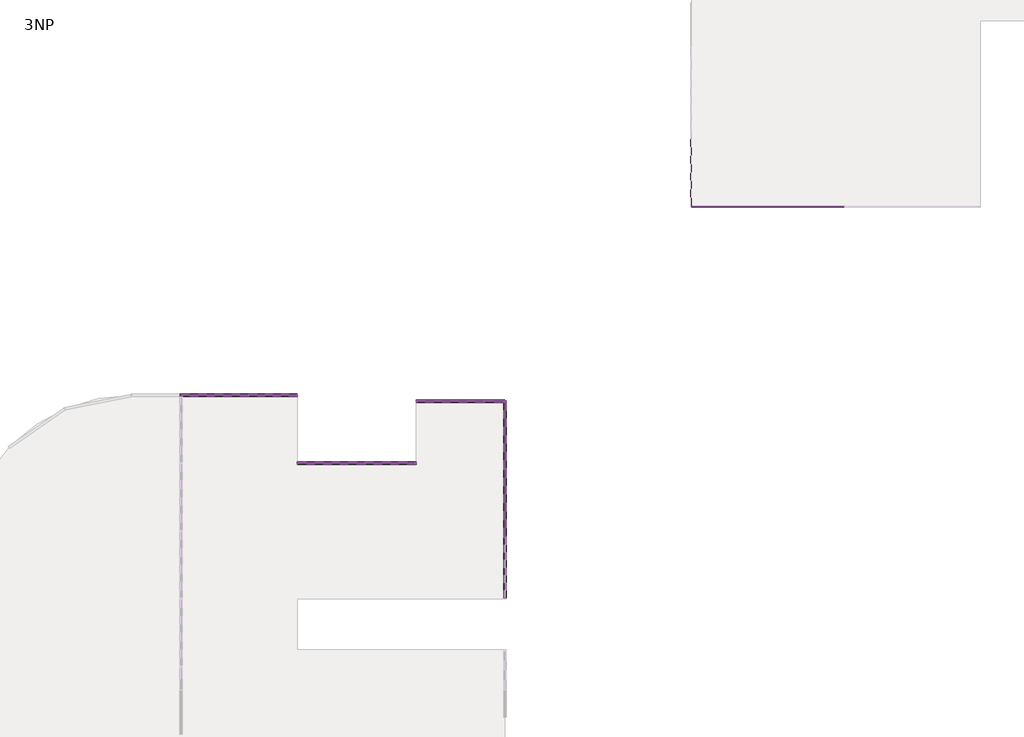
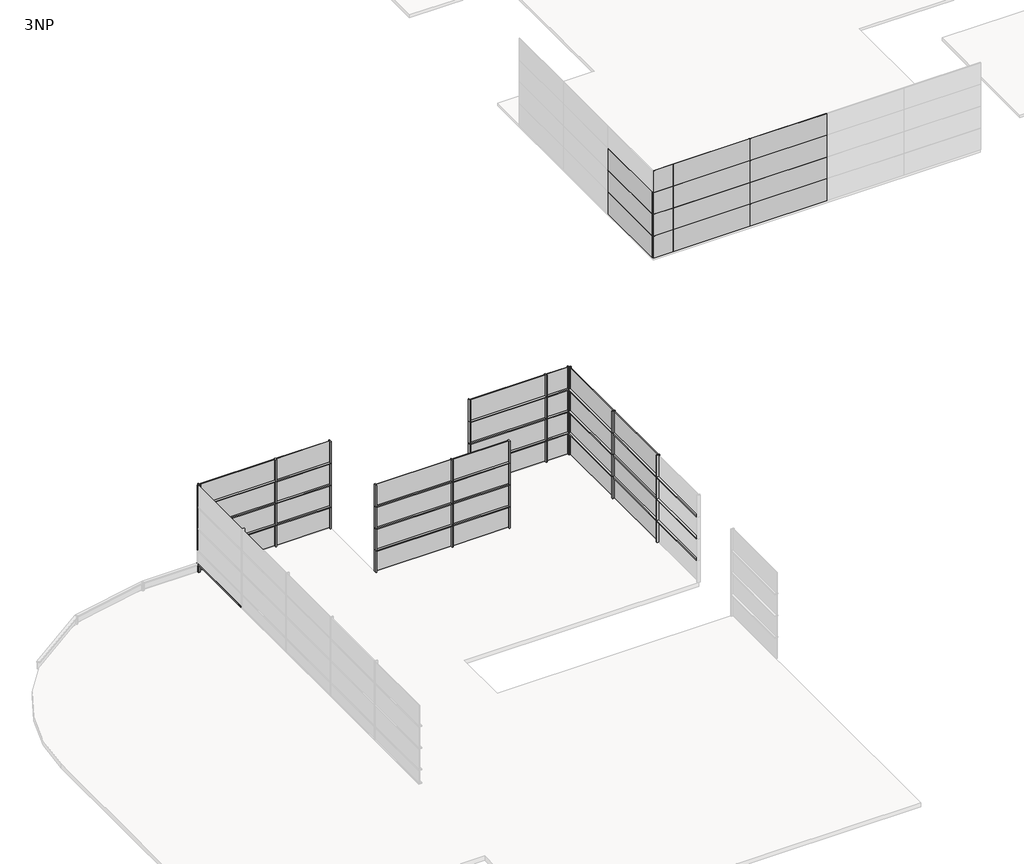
# One storey, part 3 of 4: 81 members, 47 plates.
"""IFC4 building model written with IfcOpenShell, lengths in millimetres."""

from ifc_helpers import new_model, si_unit, origin, place, context, project, spatial, transform, mapped, element, save
from components import rectangular_mullion_50_x_150mm_d99dc9be, rectangular_mullion_50_x_150mm_402ab136, rectangular_mullion_50_x_150mm_6588f46c, rectangular_mullion_50_x_150mm_3fe1b35e, rectangular_mullion_50_x_150mm_a037c29c, rectangular_mullion_50_x_150mm_c2546fd4, rectangular_mullion_50_x_150mm_8b4cb4b7, rectangular_mullion_50_x_150mm_6c212b22, rectangular_mullion_50_x_150mm_70b588a3, rectangular_mullion_50_x_150mm_185cfd49, rectangular_mullion_50_x_150mm_2fe63767, system_panel_glazed_8e9402eb, system_panel_glazed_89ac83a7, system_panel_glazed_e890f31e, system_panel_glazed_bdf03046, system_panel_glazed_e3e91f99, system_panel_glazed_39d17f19, system_panel_glazed_d6eabcf1, system_panel_glazed_926b6355

model = new_model("IFC4")

# Units and contexts
model_context = context("Model", 3, world=origin())
ifc_project = project(units=[si_unit("LENGTHUNIT", "METRE", prefix="MILLI")], contexts=[model_context])

# Site, building, storey
site = spatial("IfcSite", under=ifc_project)
building = spatial("IfcBuilding", under=site)
storey = spatial("IfcBuildingStorey", under=building, Name="3NP", Elevation=12000.0)

# Members
placement = place(None, origin())
rectangular_mullion_50_x_150mm_shape = rectangular_mullion_50_x_150mm_d99dc9be(model_context)
element("IfcMember", 1, ObjectType="Rectangular Mullion : 50 x 150mm", at=placement, inside=storey, context=model_context, shape_type="MappedRepresentation", body=[
    mapped(rectangular_mullion_50_x_150mm_shape, transform((13503.2660975, 39.3555415, 16800.0), x_axis=(0.0, -1.0, 0.0), y_axis=(1.0, 0.0, 0.0), z_axis=(0.0, 0.0, 1.0))),
])
element("IfcMember", 2, ObjectType="Rectangular Mullion : 50 x 150mm", at=placement, inside=storey, context=model_context, shape_type="MappedRepresentation", body=[
    mapped(rectangular_mullion_50_x_150mm_shape, transform((13503.2660975, 39.3555415, 15600.0), x_axis=(0.0, -1.0, 0.0), y_axis=(1.0, 0.0, 0.0), z_axis=(0.0, 0.0, 1.0))),
])
element("IfcMember", 3, ObjectType="Rectangular Mullion : 50 x 150mm", at=placement, inside=storey, context=model_context, shape_type="MappedRepresentation", body=[
    mapped(rectangular_mullion_50_x_150mm_shape, transform((13503.2660975, 39.3555415, 14400.0), x_axis=(0.0, -1.0, 0.0), y_axis=(1.0, 0.0, 0.0), z_axis=(0.0, 0.0, 1.0))),
])
element("IfcMember", 4, ObjectType="Rectangular Mullion : 50 x 150mm", at=placement, inside=storey, context=model_context, shape_type="MappedRepresentation", body=[
    mapped(rectangular_mullion_50_x_150mm_shape, transform((13503.2660975, 39.3555415, 13200.0), x_axis=(0.0, -1.0, 0.0), y_axis=(1.0, 0.0, 0.0), z_axis=(0.0, 0.0, 1.0))),
])
element("IfcMember", 5, ObjectType="Rectangular Mullion : 50 x 150mm", at=placement, inside=storey, context=model_context, shape_type="MappedRepresentation", body=[
    mapped(rectangular_mullion_50_x_150mm_shape, transform((13503.2660975, 4039.3555415, 16800.0), x_axis=(0.0, -1.0, 0.0), y_axis=(1.0, 0.0, 0.0), z_axis=(0.0, 0.0, 1.0))),
])
element("IfcMember", 6, ObjectType="Rectangular Mullion : 50 x 150mm", at=placement, inside=storey, context=model_context, shape_type="MappedRepresentation", body=[
    mapped(rectangular_mullion_50_x_150mm_shape, transform((13503.2660975, 4039.3555415, 15600.0), x_axis=(0.0, -1.0, 0.0), y_axis=(1.0, 0.0, 0.0), z_axis=(0.0, 0.0, 1.0))),
])
element("IfcMember", 7, ObjectType="Rectangular Mullion : 50 x 150mm", at=placement, inside=storey, context=model_context, shape_type="MappedRepresentation", body=[
    mapped(rectangular_mullion_50_x_150mm_shape, transform((13503.2660975, 4039.3555415, 14400.0), x_axis=(0.0, -1.0, 0.0), y_axis=(1.0, 0.0, 0.0), z_axis=(0.0, 0.0, 1.0))),
])
element("IfcMember", 8, ObjectType="Rectangular Mullion : 50 x 150mm", at=placement, inside=storey, context=model_context, shape_type="MappedRepresentation", body=[
    mapped(rectangular_mullion_50_x_150mm_shape, transform((13503.2660975, 4039.3555415, 13200.0), x_axis=(0.0, -1.0, 0.0), y_axis=(1.0, 0.0, 0.0), z_axis=(0.0, 0.0, 1.0))),
])
element("IfcMember", 9, ObjectType="Rectangular Mullion : 50 x 150mm", at=placement, inside=storey, context=model_context, shape_type="MappedRepresentation", body=[
    mapped(rectangular_mullion_50_x_150mm_shape, transform((-1587.173406, 8375.9839566, 13200.0), x_axis=(1.0, 0.0, 0.0), y_axis=(0.0, 1.0, 0.0), z_axis=(0.0, 0.0, 1.0))),
])
element("IfcMember", 10, ObjectType="Rectangular Mullion : 50 x 150mm", at=placement, inside=storey, context=model_context, shape_type="MappedRepresentation", body=[
    mapped(rectangular_mullion_50_x_150mm_shape, transform((-1587.173406, 8375.9839566, 14400.0), x_axis=(1.0, 0.0, 0.0), y_axis=(0.0, 1.0, 0.0), z_axis=(0.0, 0.0, 1.0))),
])
element("IfcMember", 11, ObjectType="Rectangular Mullion : 50 x 150mm", at=placement, inside=storey, context=model_context, shape_type="MappedRepresentation", body=[
    mapped(rectangular_mullion_50_x_150mm_shape, transform((-1587.173406, 8375.9839566, 15600.0), x_axis=(1.0, 0.0, 0.0), y_axis=(0.0, 1.0, 0.0), z_axis=(0.0, 0.0, 1.0))),
])
element("IfcMember", 12, ObjectType="Rectangular Mullion : 50 x 150mm", at=placement, inside=storey, context=model_context, shape_type="MappedRepresentation", body=[
    mapped(rectangular_mullion_50_x_150mm_shape, transform((-1587.173406, 8375.9839566, 16800.0), x_axis=(1.0, 0.0, 0.0), y_axis=(0.0, 1.0, 0.0), z_axis=(0.0, 0.0, 1.0))),
])
element("IfcMember", 13, ObjectType="Rectangular Mullion : 50 x 150mm", at=placement, inside=storey, context=model_context, shape_type="MappedRepresentation", body=[
    mapped(rectangular_mullion_50_x_150mm_shape, transform((5278.419219, 4375.9839566, 16800.0), x_axis=(1.0, 0.0, 0.0), y_axis=(0.0, 1.0, 0.0), z_axis=(0.0, 0.0, 1.0))),
])
element("IfcMember", 14, ObjectType="Rectangular Mullion : 50 x 150mm", at=placement, inside=storey, context=model_context, shape_type="MappedRepresentation", body=[
    mapped(rectangular_mullion_50_x_150mm_shape, transform((5278.419219, 4375.9839566, 13200.0), x_axis=(1.0, 0.0, 0.0), y_axis=(0.0, 1.0, 0.0), z_axis=(0.0, 0.0, 1.0))),
])
element("IfcMember", 15, ObjectType="Rectangular Mullion : 50 x 150mm", at=placement, inside=storey, context=model_context, shape_type="MappedRepresentation", body=[
    mapped(rectangular_mullion_50_x_150mm_shape, transform((5278.419219, 4375.9839566, 14400.0), x_axis=(1.0, 0.0, 0.0), y_axis=(0.0, 1.0, 0.0), z_axis=(0.0, 0.0, 1.0))),
])
element("IfcMember", 16, ObjectType="Rectangular Mullion : 50 x 150mm", at=placement, inside=storey, context=model_context, shape_type="MappedRepresentation", body=[
    mapped(rectangular_mullion_50_x_150mm_shape, transform((5278.419219, 4375.9839566, 15600.0), x_axis=(1.0, 0.0, 0.0), y_axis=(0.0, 1.0, 0.0), z_axis=(0.0, 0.0, 1.0))),
])
element("IfcMember", 17, ObjectType="Rectangular Mullion : 50 x 150mm", at=placement, inside=storey, context=model_context, shape_type="MappedRepresentation", body=[
    mapped(rectangular_mullion_50_x_150mm_shape, transform((12278.419219, 8039.3555415, 13200.0), x_axis=(1.0, 0.0, 0.0), y_axis=(0.0, 1.0, 0.0), z_axis=(0.0, 0.0, 1.0))),
])
element("IfcMember", 18, ObjectType="Rectangular Mullion : 50 x 150mm", at=placement, inside=storey, context=model_context, shape_type="MappedRepresentation", body=[
    mapped(rectangular_mullion_50_x_150mm_shape, transform((12278.419219, 8039.3555415, 14400.0), x_axis=(1.0, 0.0, 0.0), y_axis=(0.0, 1.0, 0.0), z_axis=(0.0, 0.0, 1.0))),
])
element("IfcMember", 19, ObjectType="Rectangular Mullion : 50 x 150mm", at=placement, inside=storey, context=model_context, shape_type="MappedRepresentation", body=[
    mapped(rectangular_mullion_50_x_150mm_shape, transform((12278.419219, 8039.3555415, 15600.0), x_axis=(1.0, 0.0, 0.0), y_axis=(0.0, 1.0, 0.0), z_axis=(0.0, 0.0, 1.0))),
])
element("IfcMember", 20, ObjectType="Rectangular Mullion : 50 x 150mm", at=placement, inside=storey, context=model_context, shape_type="MappedRepresentation", body=[
    mapped(rectangular_mullion_50_x_150mm_shape, transform((12278.419219, 8039.3555415, 16800.0), x_axis=(1.0, 0.0, 0.0), y_axis=(0.0, 1.0, 0.0), z_axis=(0.0, 0.0, 1.0))),
])
rectangular_mullion_50_x_150mm_2_shape = rectangular_mullion_50_x_150mm_402ab136(model_context)
element("IfcMember", 21, ObjectType="Rectangular Mullion : 50 x 150mm", at=placement, inside=storey, context=model_context, shape_type="MappedRepresentation", body=[
    mapped(rectangular_mullion_50_x_150mm_2_shape, transform((-5587.173406, 8325.9839566, 12448.4924443), x_axis=(0.0, 0.0, -1.0), y_axis=(-1.0, 0.0, 0.0), z_axis=(0.0, 1.0, 0.0))),
])
rectangular_mullion_50_x_150mm_3_shape = rectangular_mullion_50_x_150mm_6588f46c(model_context)
element("IfcMember", 22, ObjectType="Rectangular Mullion : 50 x 150mm", at=placement, inside=storey, context=model_context, shape_type="MappedRepresentation", body=[
    mapped(rectangular_mullion_50_x_150mm_3_shape, transform((-5587.173406, 8375.9839566, 14400.0), x_axis=(0.0, 1.0, 0.0), y_axis=(-1.0, 0.0, 0.0), z_axis=(0.0, 0.0, 1.0))),
])
element("IfcMember", 23, ObjectType="Rectangular Mullion : 50 x 150mm", at=placement, inside=storey, context=model_context, shape_type="MappedRepresentation", body=[
    mapped(rectangular_mullion_50_x_150mm_3_shape, transform((-5587.173406, 8375.9839566, 15600.0), x_axis=(0.0, 1.0, 0.0), y_axis=(-1.0, 0.0, 0.0), z_axis=(0.0, 0.0, 1.0))),
])
element("IfcMember", 24, ObjectType="Rectangular Mullion : 50 x 150mm", at=placement, inside=storey, context=model_context, shape_type="MappedRepresentation", body=[
    mapped(rectangular_mullion_50_x_150mm_3_shape, transform((-5587.173406, 8375.9839566, 16800.0), x_axis=(0.0, 1.0, 0.0), y_axis=(-1.0, 0.0, 0.0), z_axis=(0.0, 0.0, 1.0))),
])
element("IfcMember", 25, ObjectType="Rectangular Mullion : 50 x 150mm", at=placement, inside=storey, context=model_context, shape_type="MappedRepresentation", body=[
    mapped(rectangular_mullion_50_x_150mm_3_shape, transform((1278.419219, 8375.9839566, 13200.0), x_axis=(1.0, 0.0, 0.0), y_axis=(0.0, 1.0, 0.0), z_axis=(0.0, 0.0, 1.0))),
])
element("IfcMember", 26, ObjectType="Rectangular Mullion : 50 x 150mm", at=placement, inside=storey, context=model_context, shape_type="MappedRepresentation", body=[
    mapped(rectangular_mullion_50_x_150mm_3_shape, transform((1278.419219, 8375.9839566, 14400.0), x_axis=(1.0, 0.0, 0.0), y_axis=(0.0, 1.0, 0.0), z_axis=(0.0, 0.0, 1.0))),
])
element("IfcMember", 27, ObjectType="Rectangular Mullion : 50 x 150mm", at=placement, inside=storey, context=model_context, shape_type="MappedRepresentation", body=[
    mapped(rectangular_mullion_50_x_150mm_3_shape, transform((1278.419219, 8375.9839566, 15600.0), x_axis=(1.0, 0.0, 0.0), y_axis=(0.0, 1.0, 0.0), z_axis=(0.0, 0.0, 1.0))),
])
element("IfcMember", 28, ObjectType="Rectangular Mullion : 50 x 150mm", at=placement, inside=storey, context=model_context, shape_type="MappedRepresentation", body=[
    mapped(rectangular_mullion_50_x_150mm_3_shape, transform((1278.419219, 8375.9839566, 16800.0), x_axis=(1.0, 0.0, 0.0), y_axis=(0.0, 1.0, 0.0), z_axis=(0.0, 0.0, 1.0))),
])
element("IfcMember", 29, ObjectType="Rectangular Mullion : 50 x 150mm", at=placement, inside=storey, context=model_context, shape_type="MappedRepresentation", body=[
    mapped(rectangular_mullion_50_x_150mm_3_shape, transform((8278.419219, 4375.9839566, 13200.0), x_axis=(1.0, 0.0, 0.0), y_axis=(0.0, 1.0, 0.0), z_axis=(0.0, 0.0, 1.0))),
])
element("IfcMember", 30, ObjectType="Rectangular Mullion : 50 x 150mm", at=placement, inside=storey, context=model_context, shape_type="MappedRepresentation", body=[
    mapped(rectangular_mullion_50_x_150mm_3_shape, transform((8278.419219, 4375.9839566, 14400.0), x_axis=(1.0, 0.0, 0.0), y_axis=(0.0, 1.0, 0.0), z_axis=(0.0, 0.0, 1.0))),
])
element("IfcMember", 31, ObjectType="Rectangular Mullion : 50 x 150mm", at=placement, inside=storey, context=model_context, shape_type="MappedRepresentation", body=[
    mapped(rectangular_mullion_50_x_150mm_3_shape, transform((8278.419219, 4375.9839566, 15600.0), x_axis=(1.0, 0.0, 0.0), y_axis=(0.0, 1.0, 0.0), z_axis=(0.0, 0.0, 1.0))),
])
element("IfcMember", 32, ObjectType="Rectangular Mullion : 50 x 150mm", at=placement, inside=storey, context=model_context, shape_type="MappedRepresentation", body=[
    mapped(rectangular_mullion_50_x_150mm_3_shape, transform((8278.419219, 4375.9839566, 16800.0), x_axis=(1.0, 0.0, 0.0), y_axis=(0.0, 1.0, 0.0), z_axis=(0.0, 0.0, 1.0))),
])
element("IfcMember", 33, ObjectType="Rectangular Mullion : 50 x 150mm", at=placement, inside=storey, context=model_context, shape_type="MappedRepresentation", body=[
    mapped(rectangular_mullion_50_x_150mm_3_shape, transform((13503.2660975, 8039.3555415, 13200.0), x_axis=(1.0, 0.0, 0.0), y_axis=(0.0, 1.0, 0.0), z_axis=(0.0, 0.0, 1.0))),
])
element("IfcMember", 34, ObjectType="Rectangular Mullion : 50 x 150mm", at=placement, inside=storey, context=model_context, shape_type="MappedRepresentation", body=[
    mapped(rectangular_mullion_50_x_150mm_3_shape, transform((13503.2660975, 8039.3555415, 14400.0), x_axis=(1.0, 0.0, 0.0), y_axis=(0.0, 1.0, 0.0), z_axis=(0.0, 0.0, 1.0))),
])
element("IfcMember", 35, ObjectType="Rectangular Mullion : 50 x 150mm", at=placement, inside=storey, context=model_context, shape_type="MappedRepresentation", body=[
    mapped(rectangular_mullion_50_x_150mm_3_shape, transform((13503.2660975, 8039.3555415, 15600.0), x_axis=(1.0, 0.0, 0.0), y_axis=(0.0, 1.0, 0.0), z_axis=(0.0, 0.0, 1.0))),
])
element("IfcMember", 36, ObjectType="Rectangular Mullion : 50 x 150mm", at=placement, inside=storey, context=model_context, shape_type="MappedRepresentation", body=[
    mapped(rectangular_mullion_50_x_150mm_3_shape, transform((13503.2660975, 8039.3555415, 16800.0), x_axis=(1.0, 0.0, 0.0), y_axis=(0.0, 1.0, 0.0), z_axis=(0.0, 0.0, 1.0))),
])
rectangular_mullion_50_x_150mm_4_shape = rectangular_mullion_50_x_150mm_3fe1b35e(model_context)
element("IfcMember", 37, ObjectType="Rectangular Mullion : 50 x 150mm", at=placement, inside=storey, context=model_context, shape_type="MappedRepresentation", body=[
    mapped(rectangular_mullion_50_x_150mm_4_shape, transform((13503.2660975, 14.3555415, 15600.0), x_axis=(0.0, 0.0, 1.0), y_axis=(1.0, 0.0, 0.0), z_axis=(0.0, 1.0, 0.0))),
])
element("IfcMember", 38, ObjectType="Rectangular Mullion : 50 x 150mm", at=placement, inside=storey, context=model_context, shape_type="MappedRepresentation", body=[
    mapped(rectangular_mullion_50_x_150mm_4_shape, transform((13503.2660975, 14.3555415, 14400.0), x_axis=(0.0, 0.0, 1.0), y_axis=(1.0, 0.0, 0.0), z_axis=(0.0, 1.0, 0.0))),
])
element("IfcMember", 39, ObjectType="Rectangular Mullion : 50 x 150mm", at=placement, inside=storey, context=model_context, shape_type="MappedRepresentation", body=[
    mapped(rectangular_mullion_50_x_150mm_4_shape, transform((13503.2660975, 14.3555415, 13200.0), x_axis=(0.0, 0.0, 1.0), y_axis=(1.0, 0.0, 0.0), z_axis=(0.0, 1.0, 0.0))),
])
rectangular_mullion_50_x_150mm_5_shape = rectangular_mullion_50_x_150mm_a037c29c(model_context)
element("IfcMember", 40, ObjectType="Rectangular Mullion : 50 x 150mm", at=placement, inside=storey, context=model_context, shape_type="MappedRepresentation", body=[
    mapped(rectangular_mullion_50_x_150mm_5_shape, transform((13503.2660975, 4014.3555415, 15600.0), x_axis=(0.0, 0.0, 1.0), y_axis=(1.0, 0.0, 0.0), z_axis=(0.0, 1.0, 0.0))),
])
element("IfcMember", 41, ObjectType="Rectangular Mullion : 50 x 150mm", at=placement, inside=storey, context=model_context, shape_type="MappedRepresentation", body=[
    mapped(rectangular_mullion_50_x_150mm_5_shape, transform((13503.2660975, 4014.3555415, 14400.0), x_axis=(0.0, 0.0, 1.0), y_axis=(1.0, 0.0, 0.0), z_axis=(0.0, 1.0, 0.0))),
])
element("IfcMember", 42, ObjectType="Rectangular Mullion : 50 x 150mm", at=placement, inside=storey, context=model_context, shape_type="MappedRepresentation", body=[
    mapped(rectangular_mullion_50_x_150mm_5_shape, transform((13503.2660975, 4014.3555415, 13200.0), x_axis=(0.0, 0.0, 1.0), y_axis=(1.0, 0.0, 0.0), z_axis=(0.0, 1.0, 0.0))),
])
rectangular_mullion_50_x_150mm_6_shape = rectangular_mullion_50_x_150mm_c2546fd4(model_context)
element("IfcMember", 43, ObjectType="Rectangular Mullion : 50 x 150mm", at=placement, inside=storey, context=model_context, shape_type="MappedRepresentation", body=[
    mapped(rectangular_mullion_50_x_150mm_6_shape, transform((13503.2660975, 7989.3555415, 15600.0), x_axis=(0.0, 0.0, 1.0), y_axis=(1.0, 0.0, 0.0), z_axis=(0.0, 1.0, 0.0))),
])
element("IfcMember", 44, ObjectType="Rectangular Mullion : 50 x 150mm", at=placement, inside=storey, context=model_context, shape_type="MappedRepresentation", body=[
    mapped(rectangular_mullion_50_x_150mm_6_shape, transform((13503.2660975, 7989.3555415, 14400.0), x_axis=(0.0, 0.0, 1.0), y_axis=(1.0, 0.0, 0.0), z_axis=(0.0, 1.0, 0.0))),
])
element("IfcMember", 45, ObjectType="Rectangular Mullion : 50 x 150mm", at=placement, inside=storey, context=model_context, shape_type="MappedRepresentation", body=[
    mapped(rectangular_mullion_50_x_150mm_6_shape, transform((13503.2660975, 7989.3555415, 13200.0), x_axis=(0.0, 0.0, 1.0), y_axis=(1.0, 0.0, 0.0), z_axis=(0.0, 1.0, 0.0))),
])
element("IfcMember", 46, ObjectType="Rectangular Mullion : 50 x 150mm", at=placement, inside=storey, context=model_context, shape_type="MappedRepresentation", body=[
    mapped(rectangular_mullion_50_x_150mm_6_shape, transform((-5537.173406, 8375.9839566, 13200.0), x_axis=(0.0, 0.0, 1.0), y_axis=(0.0, 1.0, 0.0), z_axis=(-1.0, 0.0, 0.0))),
])
element("IfcMember", 47, ObjectType="Rectangular Mullion : 50 x 150mm", at=placement, inside=storey, context=model_context, shape_type="MappedRepresentation", body=[
    mapped(rectangular_mullion_50_x_150mm_6_shape, transform((-5537.173406, 8375.9839566, 14400.0), x_axis=(0.0, 0.0, 1.0), y_axis=(0.0, 1.0, 0.0), z_axis=(-1.0, 0.0, 0.0))),
])
element("IfcMember", 48, ObjectType="Rectangular Mullion : 50 x 150mm", at=placement, inside=storey, context=model_context, shape_type="MappedRepresentation", body=[
    mapped(rectangular_mullion_50_x_150mm_6_shape, transform((-5537.173406, 8375.9839566, 15600.0), x_axis=(0.0, 0.0, 1.0), y_axis=(0.0, 1.0, 0.0), z_axis=(-1.0, 0.0, 0.0))),
])
element("IfcMember", 49, ObjectType="Rectangular Mullion : 50 x 150mm", at=placement, inside=storey, context=model_context, shape_type="MappedRepresentation", body=[
    mapped(rectangular_mullion_50_x_150mm_6_shape, transform((1328.419219, 4375.9839566, 13200.0), x_axis=(0.0, 0.0, 1.0), y_axis=(0.0, 1.0, 0.0), z_axis=(-1.0, 0.0, 0.0))),
])
element("IfcMember", 50, ObjectType="Rectangular Mullion : 50 x 150mm", at=placement, inside=storey, context=model_context, shape_type="MappedRepresentation", body=[
    mapped(rectangular_mullion_50_x_150mm_6_shape, transform((1328.419219, 4375.9839566, 14400.0), x_axis=(0.0, 0.0, 1.0), y_axis=(0.0, 1.0, 0.0), z_axis=(-1.0, 0.0, 0.0))),
])
element("IfcMember", 51, ObjectType="Rectangular Mullion : 50 x 150mm", at=placement, inside=storey, context=model_context, shape_type="MappedRepresentation", body=[
    mapped(rectangular_mullion_50_x_150mm_6_shape, transform((1328.419219, 4375.9839566, 15600.0), x_axis=(0.0, 0.0, 1.0), y_axis=(0.0, 1.0, 0.0), z_axis=(-1.0, 0.0, 0.0))),
])
element("IfcMember", 52, ObjectType="Rectangular Mullion : 50 x 150mm", at=placement, inside=storey, context=model_context, shape_type="MappedRepresentation", body=[
    mapped(rectangular_mullion_50_x_150mm_6_shape, transform((8328.419219, 8039.3555415, 13200.0), x_axis=(0.0, 0.0, 1.0), y_axis=(0.0, 1.0, 0.0), z_axis=(-1.0, 0.0, 0.0))),
])
element("IfcMember", 53, ObjectType="Rectangular Mullion : 50 x 150mm", at=placement, inside=storey, context=model_context, shape_type="MappedRepresentation", body=[
    mapped(rectangular_mullion_50_x_150mm_6_shape, transform((8328.419219, 8039.3555415, 14400.0), x_axis=(0.0, 0.0, 1.0), y_axis=(0.0, 1.0, 0.0), z_axis=(-1.0, 0.0, 0.0))),
])
element("IfcMember", 54, ObjectType="Rectangular Mullion : 50 x 150mm", at=placement, inside=storey, context=model_context, shape_type="MappedRepresentation", body=[
    mapped(rectangular_mullion_50_x_150mm_6_shape, transform((8328.419219, 8039.3555415, 15600.0), x_axis=(0.0, 0.0, 1.0), y_axis=(0.0, 1.0, 0.0), z_axis=(-1.0, 0.0, 0.0))),
])
element("IfcMember", 55, ObjectType="Rectangular Mullion : 50 x 150mm", at=placement, inside=storey, context=model_context, shape_type="MappedRepresentation", body=[
    mapped(rectangular_mullion_50_x_150mm_3_shape, transform((13503.2660975, 8039.3555415, 15600.0), x_axis=(0.0, 1.0, 0.0), y_axis=(1.0, 0.0, 0.0), z_axis=(0.0, 0.0, -1.0))),
])
element("IfcMember", 56, ObjectType="Rectangular Mullion : 50 x 150mm", at=placement, inside=storey, context=model_context, shape_type="MappedRepresentation", body=[
    mapped(rectangular_mullion_50_x_150mm_3_shape, transform((13503.2660975, 8039.3555415, 14400.0), x_axis=(0.0, 1.0, 0.0), y_axis=(1.0, 0.0, 0.0), z_axis=(0.0, 0.0, -1.0))),
])
element("IfcMember", 57, ObjectType="Rectangular Mullion : 50 x 150mm", at=placement, inside=storey, context=model_context, shape_type="MappedRepresentation", body=[
    mapped(rectangular_mullion_50_x_150mm_3_shape, transform((13503.2660975, 8039.3555415, 13200.0), x_axis=(0.0, 1.0, 0.0), y_axis=(1.0, 0.0, 0.0), z_axis=(0.0, 0.0, -1.0))),
])
element("IfcMember", 58, ObjectType="Rectangular Mullion : 50 x 150mm", at=placement, inside=storey, context=model_context, shape_type="MappedRepresentation", body=[
    mapped(rectangular_mullion_50_x_150mm_3_shape, transform((13503.2660975, 8039.3555415, 12000.0), x_axis=(0.0, 1.0, 0.0), y_axis=(1.0, 0.0, 0.0), z_axis=(0.0, 0.0, -1.0))),
])
element("IfcMember", 59, ObjectType="Rectangular Mullion : 50 x 150mm", at=placement, inside=storey, context=model_context, shape_type="MappedRepresentation", body=[
    mapped(rectangular_mullion_50_x_150mm_3_shape, transform((-5587.173406, 8375.9839566, 13200.0), x_axis=(-1.0, 0.0, 0.0), y_axis=(0.0, 1.0, 0.0), z_axis=(0.0, 0.0, -1.0))),
])
element("IfcMember", 60, ObjectType="Rectangular Mullion : 50 x 150mm", at=placement, inside=storey, context=model_context, shape_type="MappedRepresentation", body=[
    mapped(rectangular_mullion_50_x_150mm_3_shape, transform((-5587.173406, 8375.9839566, 14400.0), x_axis=(-1.0, 0.0, 0.0), y_axis=(0.0, 1.0, 0.0), z_axis=(0.0, 0.0, -1.0))),
])
element("IfcMember", 61, ObjectType="Rectangular Mullion : 50 x 150mm", at=placement, inside=storey, context=model_context, shape_type="MappedRepresentation", body=[
    mapped(rectangular_mullion_50_x_150mm_3_shape, transform((-5587.173406, 8375.9839566, 15600.0), x_axis=(-1.0, 0.0, 0.0), y_axis=(0.0, 1.0, 0.0), z_axis=(0.0, 0.0, -1.0))),
])
element("IfcMember", 62, ObjectType="Rectangular Mullion : 50 x 150mm", at=placement, inside=storey, context=model_context, shape_type="MappedRepresentation", body=[
    mapped(rectangular_mullion_50_x_150mm_3_shape, transform((1278.419219, 4375.9839566, 12000.0), x_axis=(-1.0, 0.0, 0.0), y_axis=(0.0, 1.0, 0.0), z_axis=(0.0, 0.0, -1.0))),
])
element("IfcMember", 63, ObjectType="Rectangular Mullion : 50 x 150mm", at=placement, inside=storey, context=model_context, shape_type="MappedRepresentation", body=[
    mapped(rectangular_mullion_50_x_150mm_3_shape, transform((1278.419219, 4375.9839566, 13200.0), x_axis=(-1.0, 0.0, 0.0), y_axis=(0.0, 1.0, 0.0), z_axis=(0.0, 0.0, -1.0))),
])
element("IfcMember", 64, ObjectType="Rectangular Mullion : 50 x 150mm", at=placement, inside=storey, context=model_context, shape_type="MappedRepresentation", body=[
    mapped(rectangular_mullion_50_x_150mm_3_shape, transform((1278.419219, 4375.9839566, 14400.0), x_axis=(-1.0, 0.0, 0.0), y_axis=(0.0, 1.0, 0.0), z_axis=(0.0, 0.0, -1.0))),
])
element("IfcMember", 65, ObjectType="Rectangular Mullion : 50 x 150mm", at=placement, inside=storey, context=model_context, shape_type="MappedRepresentation", body=[
    mapped(rectangular_mullion_50_x_150mm_3_shape, transform((1278.419219, 4375.9839566, 15600.0), x_axis=(-1.0, 0.0, 0.0), y_axis=(0.0, 1.0, 0.0), z_axis=(0.0, 0.0, -1.0))),
])
element("IfcMember", 66, ObjectType="Rectangular Mullion : 50 x 150mm", at=placement, inside=storey, context=model_context, shape_type="MappedRepresentation", body=[
    mapped(rectangular_mullion_50_x_150mm_3_shape, transform((8278.419219, 8039.3555415, 12000.0), x_axis=(-1.0, 0.0, 0.0), y_axis=(0.0, 1.0, 0.0), z_axis=(0.0, 0.0, -1.0))),
])
element("IfcMember", 67, ObjectType="Rectangular Mullion : 50 x 150mm", at=placement, inside=storey, context=model_context, shape_type="MappedRepresentation", body=[
    mapped(rectangular_mullion_50_x_150mm_3_shape, transform((8278.419219, 8039.3555415, 13200.0), x_axis=(-1.0, 0.0, 0.0), y_axis=(0.0, 1.0, 0.0), z_axis=(0.0, 0.0, -1.0))),
])
element("IfcMember", 68, ObjectType="Rectangular Mullion : 50 x 150mm", at=placement, inside=storey, context=model_context, shape_type="MappedRepresentation", body=[
    mapped(rectangular_mullion_50_x_150mm_3_shape, transform((8278.419219, 8039.3555415, 14400.0), x_axis=(-1.0, 0.0, 0.0), y_axis=(0.0, 1.0, 0.0), z_axis=(0.0, 0.0, -1.0))),
])
element("IfcMember", 69, ObjectType="Rectangular Mullion : 50 x 150mm", at=placement, inside=storey, context=model_context, shape_type="MappedRepresentation", body=[
    mapped(rectangular_mullion_50_x_150mm_3_shape, transform((8278.419219, 8039.3555415, 15600.0), x_axis=(-1.0, 0.0, 0.0), y_axis=(0.0, 1.0, 0.0), z_axis=(0.0, 0.0, -1.0))),
])
rectangular_mullion_50_x_150mm_7_shape = rectangular_mullion_50_x_150mm_8b4cb4b7(model_context)
element("IfcMember", 70, ObjectType="Rectangular Mullion : 50 x 150mm", at=placement, inside=storey, context=model_context, shape_type="MappedRepresentation", body=[
    mapped(rectangular_mullion_50_x_150mm_7_shape, transform((-1562.173406, 8375.9839566, 13200.0), x_axis=(0.0, 0.0, 1.0), y_axis=(0.0, 1.0, 0.0), z_axis=(-1.0, 0.0, 0.0))),
])
element("IfcMember", 71, ObjectType="Rectangular Mullion : 50 x 150mm", at=placement, inside=storey, context=model_context, shape_type="MappedRepresentation", body=[
    mapped(rectangular_mullion_50_x_150mm_7_shape, transform((-1562.173406, 8375.9839566, 14400.0), x_axis=(0.0, 0.0, 1.0), y_axis=(0.0, 1.0, 0.0), z_axis=(-1.0, 0.0, 0.0))),
])
element("IfcMember", 72, ObjectType="Rectangular Mullion : 50 x 150mm", at=placement, inside=storey, context=model_context, shape_type="MappedRepresentation", body=[
    mapped(rectangular_mullion_50_x_150mm_7_shape, transform((-1562.173406, 8375.9839566, 15600.0), x_axis=(0.0, 0.0, 1.0), y_axis=(0.0, 1.0, 0.0), z_axis=(-1.0, 0.0, 0.0))),
])
rectangular_mullion_50_x_150mm_8_shape = rectangular_mullion_50_x_150mm_6c212b22(model_context)
element("IfcMember", 73, ObjectType="Rectangular Mullion : 50 x 150mm", at=placement, inside=storey, context=model_context, shape_type="MappedRepresentation", body=[
    mapped(rectangular_mullion_50_x_150mm_8_shape, transform((-5587.173406, 8375.9839566, 12000.0), x_axis=(-1.0, 0.0, 0.0), y_axis=(0.0, 1.0, 0.0), z_axis=(0.0, 0.0, -1.0))),
])
rectangular_mullion_50_x_150mm_9_shape = rectangular_mullion_50_x_150mm_70b588a3(model_context)
element("IfcMember", 74, ObjectType="Rectangular Mullion : 50 x 150mm", at=placement, inside=storey, context=model_context, shape_type="MappedRepresentation", body=[
    mapped(rectangular_mullion_50_x_150mm_9_shape, transform((-5587.173406, 8375.9839566, 12448.4924443), x_axis=(-1.0, 0.0, 0.0), y_axis=(0.0, 1.0, 0.0), z_axis=(0.0, 0.0, -1.0))),
])
rectangular_mullion_50_x_150mm_10_shape = rectangular_mullion_50_x_150mm_185cfd49(model_context)
element("IfcMember", 75, ObjectType="Rectangular Mullion : 50 x 150mm", at=placement, inside=storey, context=model_context, shape_type="MappedRepresentation", body=[
    mapped(rectangular_mullion_50_x_150mm_10_shape, transform((5303.419219, 4375.9839566, 13200.0), x_axis=(0.0, 0.0, 1.0), y_axis=(0.0, 1.0, 0.0), z_axis=(-1.0, 0.0, 0.0))),
])
element("IfcMember", 76, ObjectType="Rectangular Mullion : 50 x 150mm", at=placement, inside=storey, context=model_context, shape_type="MappedRepresentation", body=[
    mapped(rectangular_mullion_50_x_150mm_10_shape, transform((5303.419219, 4375.9839566, 14400.0), x_axis=(0.0, 0.0, 1.0), y_axis=(0.0, 1.0, 0.0), z_axis=(-1.0, 0.0, 0.0))),
])
element("IfcMember", 77, ObjectType="Rectangular Mullion : 50 x 150mm", at=placement, inside=storey, context=model_context, shape_type="MappedRepresentation", body=[
    mapped(rectangular_mullion_50_x_150mm_10_shape, transform((5303.419219, 4375.9839566, 15600.0), x_axis=(0.0, 0.0, 1.0), y_axis=(0.0, 1.0, 0.0), z_axis=(-1.0, 0.0, 0.0))),
])
rectangular_mullion_50_x_150mm_11_shape = rectangular_mullion_50_x_150mm_2fe63767(model_context)
element("IfcMember", 78, ObjectType="Rectangular Mullion : 50 x 150mm", at=placement, inside=storey, context=model_context, shape_type="MappedRepresentation", body=[
    mapped(rectangular_mullion_50_x_150mm_11_shape, transform((12303.419219, 8039.3555415, 13200.0), x_axis=(0.0, 0.0, 1.0), y_axis=(0.0, 1.0, 0.0), z_axis=(-1.0, 0.0, 0.0))),
])
element("IfcMember", 79, ObjectType="Rectangular Mullion : 50 x 150mm", at=placement, inside=storey, context=model_context, shape_type="MappedRepresentation", body=[
    mapped(rectangular_mullion_50_x_150mm_11_shape, transform((12303.419219, 8039.3555415, 14400.0), x_axis=(0.0, 0.0, 1.0), y_axis=(0.0, 1.0, 0.0), z_axis=(-1.0, 0.0, 0.0))),
])
element("IfcMember", 80, ObjectType="Rectangular Mullion : 50 x 150mm", at=placement, inside=storey, context=model_context, shape_type="MappedRepresentation", body=[
    mapped(rectangular_mullion_50_x_150mm_11_shape, transform((12303.419219, 8039.3555415, 15600.0), x_axis=(0.0, 0.0, 1.0), y_axis=(0.0, 1.0, 0.0), z_axis=(-1.0, 0.0, 0.0))),
])
element("IfcMember", 81, ObjectType="Rectangular Mullion : 50 x 150mm", at=placement, inside=storey, context=model_context, shape_type="MappedRepresentation", body=[
    mapped(rectangular_mullion_50_x_150mm_8_shape, transform((-5587.173406, 8375.9839566, 12448.4924443), x_axis=(1.0, 0.0, 0.0), y_axis=(0.0, 1.0, 0.0), z_axis=(0.0, 0.0, 1.0))),
])

# Plates
system_panel_glazed_shape = system_panel_glazed_8e9402eb(model_context)
element("IfcPlate", 82, ObjectType="System Panel : Glazed", at=placement, inside=storey, context=model_context, shape_type="MappedRepresentation", body=[
    mapped(system_panel_glazed_shape, transform((13503.2660975, 6026.8555415, 12025.0), x_axis=(0.0, -1.0, 0.0), y_axis=(1.0, 0.0, 0.0), z_axis=(0.0, 0.0, 1.0))),
])
element("IfcPlate", 83, ObjectType="System Panel : Glazed", at=placement, inside=storey, context=model_context, shape_type="MappedRepresentation", body=[
    mapped(system_panel_glazed_shape, transform((13503.2660975, 6026.8555415, 13225.0), x_axis=(0.0, -1.0, 0.0), y_axis=(1.0, 0.0, 0.0), z_axis=(0.0, 0.0, 1.0))),
])
element("IfcPlate", 84, ObjectType="System Panel : Glazed", at=placement, inside=storey, context=model_context, shape_type="MappedRepresentation", body=[
    mapped(system_panel_glazed_shape, transform((13503.2660975, 6026.8555415, 14425.0), x_axis=(0.0, -1.0, 0.0), y_axis=(1.0, 0.0, 0.0), z_axis=(0.0, 0.0, 1.0))),
])
element("IfcPlate", 85, ObjectType="System Panel : Glazed", at=placement, inside=storey, context=model_context, shape_type="MappedRepresentation", body=[
    mapped(system_panel_glazed_shape, transform((13503.2660975, 6026.8555415, 15625.0), x_axis=(0.0, -1.0, 0.0), y_axis=(1.0, 0.0, 0.0), z_axis=(0.0, 0.0, 1.0))),
])
element("IfcPlate", 86, ObjectType="System Panel : Glazed", at=placement, inside=storey, context=model_context, shape_type="MappedRepresentation", body=[
    mapped(system_panel_glazed_shape, transform((10290.919219, 8039.3555415, 12025.0), x_axis=(1.0, 0.0, 0.0), y_axis=(0.0, 1.0, 0.0), z_axis=(0.0, 0.0, 1.0))),
])
element("IfcPlate", 87, ObjectType="System Panel : Glazed", at=placement, inside=storey, context=model_context, shape_type="MappedRepresentation", body=[
    mapped(system_panel_glazed_shape, transform((10290.919219, 8039.3555415, 13225.0), x_axis=(1.0, 0.0, 0.0), y_axis=(0.0, 1.0, 0.0), z_axis=(0.0, 0.0, 1.0))),
])
element("IfcPlate", 88, ObjectType="System Panel : Glazed", at=placement, inside=storey, context=model_context, shape_type="MappedRepresentation", body=[
    mapped(system_panel_glazed_shape, transform((10290.919219, 8039.3555415, 14425.0), x_axis=(1.0, 0.0, 0.0), y_axis=(0.0, 1.0, 0.0), z_axis=(0.0, 0.0, 1.0))),
])
element("IfcPlate", 89, ObjectType="System Panel : Glazed", at=placement, inside=storey, context=model_context, shape_type="MappedRepresentation", body=[
    mapped(system_panel_glazed_shape, transform((10290.919219, 8039.3555415, 15625.0), x_axis=(1.0, 0.0, 0.0), y_axis=(0.0, 1.0, 0.0), z_axis=(0.0, 0.0, 1.0))),
])
element("IfcPlate", 90, ObjectType="System Panel : Glazed", at=placement, inside=storey, context=model_context, shape_type="MappedRepresentation", body=[
    mapped(system_panel_glazed_shape, transform((3290.919219, 4375.9839566, 12025.0), x_axis=(1.0, 0.0, 0.0), y_axis=(0.0, 1.0, 0.0), z_axis=(0.0, 0.0, 1.0))),
])
element("IfcPlate", 91, ObjectType="System Panel : Glazed", at=placement, inside=storey, context=model_context, shape_type="MappedRepresentation", body=[
    mapped(system_panel_glazed_shape, transform((3290.919219, 4375.9839566, 13225.0), x_axis=(1.0, 0.0, 0.0), y_axis=(0.0, 1.0, 0.0), z_axis=(0.0, 0.0, 1.0))),
])
element("IfcPlate", 92, ObjectType="System Panel : Glazed", at=placement, inside=storey, context=model_context, shape_type="MappedRepresentation", body=[
    mapped(system_panel_glazed_shape, transform((3290.919219, 4375.9839566, 14425.0), x_axis=(1.0, 0.0, 0.0), y_axis=(0.0, 1.0, 0.0), z_axis=(0.0, 0.0, 1.0))),
])
element("IfcPlate", 93, ObjectType="System Panel : Glazed", at=placement, inside=storey, context=model_context, shape_type="MappedRepresentation", body=[
    mapped(system_panel_glazed_shape, transform((3290.919219, 4375.9839566, 15625.0), x_axis=(1.0, 0.0, 0.0), y_axis=(0.0, 1.0, 0.0), z_axis=(0.0, 0.0, 1.0))),
])
element("IfcPlate", 94, ObjectType="System Panel : Glazed", at=placement, inside=storey, context=model_context, shape_type="MappedRepresentation", body=[
    mapped(system_panel_glazed_shape, transform((-3574.673406, 8375.9839566, 13225.0), x_axis=(1.0, 0.0, 0.0), y_axis=(0.0, 1.0, 0.0), z_axis=(0.0, 0.0, 1.0))),
])
element("IfcPlate", 95, ObjectType="System Panel : Glazed", at=placement, inside=storey, context=model_context, shape_type="MappedRepresentation", body=[
    mapped(system_panel_glazed_shape, transform((-3574.673406, 8375.9839566, 14425.0), x_axis=(1.0, 0.0, 0.0), y_axis=(0.0, 1.0, 0.0), z_axis=(0.0, 0.0, 1.0))),
])
element("IfcPlate", 96, ObjectType="System Panel : Glazed", at=placement, inside=storey, context=model_context, shape_type="MappedRepresentation", body=[
    mapped(system_panel_glazed_shape, transform((-3574.673406, 8375.9839566, 15625.0), x_axis=(1.0, 0.0, 0.0), y_axis=(0.0, 1.0, 0.0), z_axis=(0.0, 0.0, 1.0))),
])
system_panel_glazed_2_shape = system_panel_glazed_89ac83a7(model_context)
element("IfcPlate", 97, ObjectType="System Panel : Glazed", at=placement, inside=storey, context=model_context, shape_type="MappedRepresentation", body=[
    mapped(system_panel_glazed_2_shape, transform((13503.2660975, 2039.3555415, 12025.0), x_axis=(0.0, -1.0, 0.0), y_axis=(1.0, 0.0, 0.0), z_axis=(0.0, 0.0, 1.0))),
])
element("IfcPlate", 98, ObjectType="System Panel : Glazed", at=placement, inside=storey, context=model_context, shape_type="MappedRepresentation", body=[
    mapped(system_panel_glazed_2_shape, transform((13503.2660975, 2039.3555415, 13225.0), x_axis=(0.0, -1.0, 0.0), y_axis=(1.0, 0.0, 0.0), z_axis=(0.0, 0.0, 1.0))),
])
element("IfcPlate", 99, ObjectType="System Panel : Glazed", at=placement, inside=storey, context=model_context, shape_type="MappedRepresentation", body=[
    mapped(system_panel_glazed_2_shape, transform((13503.2660975, 2039.3555415, 14425.0), x_axis=(0.0, -1.0, 0.0), y_axis=(1.0, 0.0, 0.0), z_axis=(0.0, 0.0, 1.0))),
])
element("IfcPlate", 100, ObjectType="System Panel : Glazed", at=placement, inside=storey, context=model_context, shape_type="MappedRepresentation", body=[
    mapped(system_panel_glazed_2_shape, transform((13503.2660975, 2039.3555415, 15625.0), x_axis=(0.0, -1.0, 0.0), y_axis=(1.0, 0.0, 0.0), z_axis=(0.0, 0.0, 1.0))),
])
system_panel_glazed_3_shape = system_panel_glazed_e890f31e(model_context)
element("IfcPlate", 101, ObjectType="System Panel : Glazed", at=placement, inside=storey, context=model_context, shape_type="MappedRepresentation", body=[
    mapped(system_panel_glazed_3_shape, transform((-166.8770935, 8375.9839566, 12025.0), x_axis=(1.0, 0.0, 0.0), y_axis=(0.0, 1.0, 0.0), z_axis=(0.0, 0.0, 1.0))),
])
element("IfcPlate", 102, ObjectType="System Panel : Glazed", at=placement, inside=storey, context=model_context, shape_type="MappedRepresentation", body=[
    mapped(system_panel_glazed_3_shape, transform((-166.8770935, 8375.9839566, 13225.0), x_axis=(1.0, 0.0, 0.0), y_axis=(0.0, 1.0, 0.0), z_axis=(0.0, 0.0, 1.0))),
])
element("IfcPlate", 103, ObjectType="System Panel : Glazed", at=placement, inside=storey, context=model_context, shape_type="MappedRepresentation", body=[
    mapped(system_panel_glazed_3_shape, transform((-166.8770935, 8375.9839566, 14425.0), x_axis=(1.0, 0.0, 0.0), y_axis=(0.0, 1.0, 0.0), z_axis=(0.0, 0.0, 1.0))),
])
element("IfcPlate", 104, ObjectType="System Panel : Glazed", at=placement, inside=storey, context=model_context, shape_type="MappedRepresentation", body=[
    mapped(system_panel_glazed_3_shape, transform((-166.8770935, 8375.9839566, 15625.0), x_axis=(1.0, 0.0, 0.0), y_axis=(0.0, 1.0, 0.0), z_axis=(0.0, 0.0, 1.0))),
])
system_panel_glazed_4_shape = system_panel_glazed_bdf03046(model_context)
element("IfcPlate", 105, ObjectType="System Panel : Glazed", at=placement, inside=storey, context=model_context, shape_type="MappedRepresentation", body=[
    mapped(system_panel_glazed_4_shape, transform((-3574.673406, 8375.9839566, 12025.0), x_axis=(1.0, 0.0, 0.0), y_axis=(0.0, 1.0, 0.0), z_axis=(0.0, 0.0, 1.0))),
])
system_panel_glazed_5_shape = system_panel_glazed_e3e91f99(model_context)
element("IfcPlate", 106, ObjectType="System Panel : Glazed", at=placement, inside=storey, context=model_context, shape_type="MappedRepresentation", body=[
    mapped(system_panel_glazed_5_shape, transform((6765.919219, 4375.9839566, 12025.0), x_axis=(1.0, 0.0, 0.0), y_axis=(0.0, 1.0, 0.0), z_axis=(0.0, 0.0, 1.0))),
])
element("IfcPlate", 107, ObjectType="System Panel : Glazed", at=placement, inside=storey, context=model_context, shape_type="MappedRepresentation", body=[
    mapped(system_panel_glazed_5_shape, transform((6765.919219, 4375.9839566, 13225.0), x_axis=(1.0, 0.0, 0.0), y_axis=(0.0, 1.0, 0.0), z_axis=(0.0, 0.0, 1.0))),
])
element("IfcPlate", 108, ObjectType="System Panel : Glazed", at=placement, inside=storey, context=model_context, shape_type="MappedRepresentation", body=[
    mapped(system_panel_glazed_5_shape, transform((6765.919219, 4375.9839566, 14425.0), x_axis=(1.0, 0.0, 0.0), y_axis=(0.0, 1.0, 0.0), z_axis=(0.0, 0.0, 1.0))),
])
element("IfcPlate", 109, ObjectType="System Panel : Glazed", at=placement, inside=storey, context=model_context, shape_type="MappedRepresentation", body=[
    mapped(system_panel_glazed_5_shape, transform((6765.919219, 4375.9839566, 15625.0), x_axis=(1.0, 0.0, 0.0), y_axis=(0.0, 1.0, 0.0), z_axis=(0.0, 0.0, 1.0))),
])
system_panel_glazed_6_shape = system_panel_glazed_39d17f19(model_context)
element("IfcPlate", 110, ObjectType="System Panel : Glazed", at=placement, inside=storey, context=model_context, shape_type="MappedRepresentation", body=[
    mapped(system_panel_glazed_6_shape, transform((12878.3426582, 8039.3555415, 12025.0), x_axis=(1.0, 0.0, 0.0), y_axis=(0.0, 1.0, 0.0), z_axis=(0.0, 0.0, 1.0))),
])
element("IfcPlate", 111, ObjectType="System Panel : Glazed", at=placement, inside=storey, context=model_context, shape_type="MappedRepresentation", body=[
    mapped(system_panel_glazed_6_shape, transform((12878.3426582, 8039.3555415, 13225.0), x_axis=(1.0, 0.0, 0.0), y_axis=(0.0, 1.0, 0.0), z_axis=(0.0, 0.0, 1.0))),
])
element("IfcPlate", 112, ObjectType="System Panel : Glazed", at=placement, inside=storey, context=model_context, shape_type="MappedRepresentation", body=[
    mapped(system_panel_glazed_6_shape, transform((12878.3426582, 8039.3555415, 14425.0), x_axis=(1.0, 0.0, 0.0), y_axis=(0.0, 1.0, 0.0), z_axis=(0.0, 0.0, 1.0))),
])
element("IfcPlate", 113, ObjectType="System Panel : Glazed", at=placement, inside=storey, context=model_context, shape_type="MappedRepresentation", body=[
    mapped(system_panel_glazed_6_shape, transform((12878.3426582, 8039.3555415, 15625.0), x_axis=(1.0, 0.0, 0.0), y_axis=(0.0, 1.0, 0.0), z_axis=(0.0, 0.0, 1.0))),
])
system_panel_glazed_7_shape = system_panel_glazed_d6eabcf1(model_context)
element("IfcPlate", 114, ObjectType="System Panel : Glazed", at=placement, inside=storey, context=model_context, shape_type="MappedRepresentation", body=[
    mapped(system_panel_glazed_7_shape, transform((31503.2660975, 19519.7749227, 12000.0), x_axis=(-1.0, 0.0, 0.0), y_axis=(0.0, -1.0, 0.0), z_axis=(0.0, 0.0, 1.0))),
])
element("IfcPlate", 115, ObjectType="System Panel : Glazed", at=placement, inside=storey, context=model_context, shape_type="MappedRepresentation", body=[
    mapped(system_panel_glazed_7_shape, transform((27503.2660975, 19519.7749227, 12000.0), x_axis=(-1.0, 0.0, 0.0), y_axis=(0.0, -1.0, 0.0), z_axis=(0.0, 0.0, 1.0))),
])
element("IfcPlate", 116, ObjectType="System Panel : Glazed", at=placement, inside=storey, context=model_context, shape_type="MappedRepresentation", body=[
    mapped(system_panel_glazed_7_shape, transform((31503.2660975, 19519.7749227, 13200.0), x_axis=(-1.0, 0.0, 0.0), y_axis=(0.0, -1.0, 0.0), z_axis=(0.0, 0.0, 1.0))),
])
element("IfcPlate", 117, ObjectType="System Panel : Glazed", at=placement, inside=storey, context=model_context, shape_type="MappedRepresentation", body=[
    mapped(system_panel_glazed_7_shape, transform((27503.2660975, 19519.7749227, 13200.0), x_axis=(-1.0, 0.0, 0.0), y_axis=(0.0, -1.0, 0.0), z_axis=(0.0, 0.0, 1.0))),
])
element("IfcPlate", 118, ObjectType="System Panel : Glazed", at=placement, inside=storey, context=model_context, shape_type="MappedRepresentation", body=[
    mapped(system_panel_glazed_7_shape, transform((31503.2660975, 19519.7749227, 14400.0), x_axis=(-1.0, 0.0, 0.0), y_axis=(0.0, -1.0, 0.0), z_axis=(0.0, 0.0, 1.0))),
])
element("IfcPlate", 119, ObjectType="System Panel : Glazed", at=placement, inside=storey, context=model_context, shape_type="MappedRepresentation", body=[
    mapped(system_panel_glazed_7_shape, transform((27503.2660975, 19519.7749227, 14400.0), x_axis=(-1.0, 0.0, 0.0), y_axis=(0.0, -1.0, 0.0), z_axis=(0.0, 0.0, 1.0))),
])
element("IfcPlate", 120, ObjectType="System Panel : Glazed", at=placement, inside=storey, context=model_context, shape_type="MappedRepresentation", body=[
    mapped(system_panel_glazed_7_shape, transform((31503.2660975, 19519.7749227, 15600.0), x_axis=(-1.0, 0.0, 0.0), y_axis=(0.0, -1.0, 0.0), z_axis=(0.0, 0.0, 1.0))),
])
element("IfcPlate", 121, ObjectType="System Panel : Glazed", at=placement, inside=storey, context=model_context, shape_type="MappedRepresentation", body=[
    mapped(system_panel_glazed_7_shape, transform((27503.2660975, 19519.7749227, 15600.0), x_axis=(-1.0, 0.0, 0.0), y_axis=(0.0, -1.0, 0.0), z_axis=(0.0, 0.0, 1.0))),
])
element("IfcPlate", 122, ObjectType="System Panel : Glazed", at=placement, inside=storey, context=model_context, shape_type="MappedRepresentation", body=[
    mapped(system_panel_glazed_7_shape, transform((24503.2660975, 21519.7749227, 12000.0), x_axis=(0.0, 1.0, 0.0), y_axis=(-1.0, 0.0, 0.0), z_axis=(0.0, 0.0, 1.0))),
])
element("IfcPlate", 123, ObjectType="System Panel : Glazed", at=placement, inside=storey, context=model_context, shape_type="MappedRepresentation", body=[
    mapped(system_panel_glazed_7_shape, transform((24503.2660975, 21519.7749227, 13200.0), x_axis=(0.0, 1.0, 0.0), y_axis=(-1.0, 0.0, 0.0), z_axis=(0.0, 0.0, 1.0))),
])
element("IfcPlate", 124, ObjectType="System Panel : Glazed", at=placement, inside=storey, context=model_context, shape_type="MappedRepresentation", body=[
    mapped(system_panel_glazed_7_shape, transform((24503.2660975, 21519.7749227, 14400.0), x_axis=(0.0, 1.0, 0.0), y_axis=(-1.0, 0.0, 0.0), z_axis=(0.0, 0.0, 1.0))),
])
system_panel_glazed_8_shape = system_panel_glazed_926b6355(model_context)
element("IfcPlate", 125, ObjectType="System Panel : Glazed", at=placement, inside=storey, context=model_context, shape_type="MappedRepresentation", body=[
    mapped(system_panel_glazed_8_shape, transform((25003.2660975, 19519.7749227, 12000.0), x_axis=(-1.0, 0.0, 0.0), y_axis=(0.0, -1.0, 0.0), z_axis=(0.0, 0.0, 1.0))),
])
element("IfcPlate", 126, ObjectType="System Panel : Glazed", at=placement, inside=storey, context=model_context, shape_type="MappedRepresentation", body=[
    mapped(system_panel_glazed_8_shape, transform((25003.2660975, 19519.7749227, 13200.0), x_axis=(-1.0, 0.0, 0.0), y_axis=(0.0, -1.0, 0.0), z_axis=(0.0, 0.0, 1.0))),
])
element("IfcPlate", 127, ObjectType="System Panel : Glazed", at=placement, inside=storey, context=model_context, shape_type="MappedRepresentation", body=[
    mapped(system_panel_glazed_8_shape, transform((25003.2660975, 19519.7749227, 14400.0), x_axis=(-1.0, 0.0, 0.0), y_axis=(0.0, -1.0, 0.0), z_axis=(0.0, 0.0, 1.0))),
])
element("IfcPlate", 128, ObjectType="System Panel : Glazed", at=placement, inside=storey, context=model_context, shape_type="MappedRepresentation", body=[
    mapped(system_panel_glazed_8_shape, transform((25003.2660975, 19519.7749227, 15600.0), x_axis=(-1.0, 0.0, 0.0), y_axis=(0.0, -1.0, 0.0), z_axis=(0.0, 0.0, 1.0))),
])

save(model, "model.ifc")
